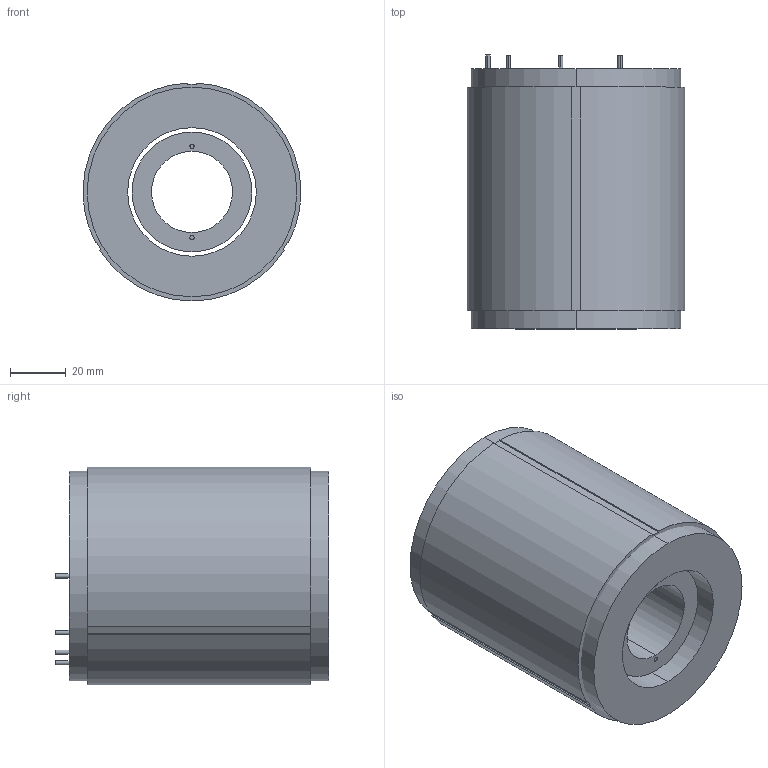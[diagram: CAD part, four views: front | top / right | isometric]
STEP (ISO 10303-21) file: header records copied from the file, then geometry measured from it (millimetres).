
FILE_DESCRIPTION (( 'STEP AP203' ), '1' );
FILE_NAME ('TM78-92 KIT 3D.STEP', '2021-06-18T07:02:10', ( '' ), ( '' ), 'SwSTEP 2.0', 'SolidWorks 2021', '' );
FILE_SCHEMA (( 'CONFIG_CONTROL_DESIGN' ));
Length unit declared in the file: millimetre
Products named in the file (1): TM78-92 KIT 3D
Bounding box: 77.99 x 98 x 77.97 mm (x, y, z)
Volume: 380672.3 mm3; surface area: 101224.8 mm2
Topology: 3 solids, 3 shells, 110 faces, 288 edges, 192 vertices
Faces by surface type: cylinder 69, plane 41
Entity records: 3535 total; most frequent: DIRECTION 648, CARTESIAN_POINT 591, ORIENTED_EDGE 576, EDGE_CURVE 288, AXIS2_PLACEMENT_3D 249, VERTEX_POINT 192, LINE 150, VECTOR 150
